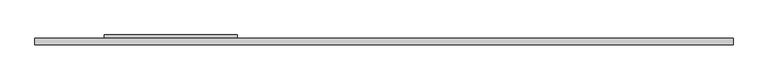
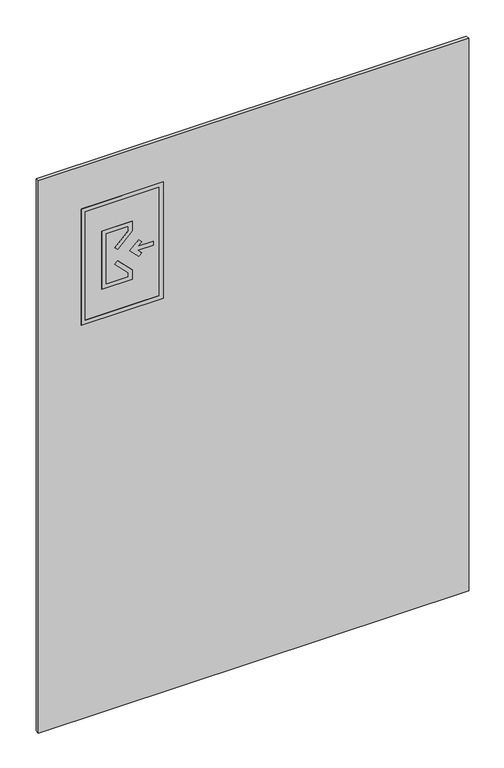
"""IFC4 building model written with IfcOpenShell, lengths in millimetres: plate geometry, 教学楼 - 窗嵌板：外贴消防通道 : 教学楼 - 窗嵌板：外贴消防通道."""

from ifc_helpers import new_model, si_unit, frame, origin, origin_with_axes, place, context, project, spatial, polyline, outline, extrude, source, transform, mapped, element, save


def plate_942ffe46(model_context):
    return source(origin(), model_context, "Body", "SweptSolid", [
        extrude(outline(polyline([(1315.8626933, -420.9928715), (1015.8626933, -420.9928715), (1015.8626933, -220.9928715), (1315.8626933, -220.9928715), (1315.8626933, -420.9928715)]), holes=[polyline([(1305.8626933, -230.9928715), (1025.8626933, -230.9928715), (1025.8626933, -410.9928715), (1305.8626933, -410.9928715), (1305.8626933, -230.9928715)])]), frame((0.0, 0.0, 0.0), z_axis=(0.0, 1.0, 0.0), x_axis=(0.0, 0.0, 1.0)), (0.0, 0.0, 1.0), 15.0),
        extrude(outline(polyline([(1115.8626933, -295.9928715), (1151.2180324, -331.3482106), (1144.1469646, -338.4192784), (1111.7205577, -305.9928715), (1100.8626933, -305.9928715), (1100.8626933, -360.9928715), (1230.8626933, -360.9928715), (1230.8626933, -305.9928715), (1220.004829, -305.9928715), (1187.5784221, -338.4192784), (1180.5073543, -331.3482106), (1215.8626933, -295.9928715), (1240.8626933, -295.9928715), (1240.8626933, -370.9928715), (1090.8626933, -370.9928715), (1090.8626933, -295.9928715), (1115.8626933, -295.9928715)])), frame((0.0, 0.0, 0.0), z_axis=(0.0, 1.0, 0.0), x_axis=(0.0, 0.0, 1.0)), (0.0, 0.0, 1.0), 15.0),
        extrude(outline(polyline([(1170.9929721, -282.5992105), (1180.1351078, -273.4570748), (1187.2061756, -280.5281427), (1165.9929721, -301.7413461), (1144.7797687, -280.5281427), (1151.8508365, -273.4570748), (1160.9929721, -282.5992105), (1160.9929721, -244.6702783), (1170.9929721, -244.6702783), (1170.9929721, -282.5992105)])), frame((0.0, 0.0, 0.0), z_axis=(0.0, 1.0, 0.0), x_axis=(0.0, 0.0, 1.0)), (0.0, 0.0, 1.0), 15.0),
        extrude(outline(polyline([(525.0, 10.0), (525.0, 0.0), (-525.0, 0.0), (-525.0, 10.0), (525.0, 10.0)])), origin_with_axes(), (0.0, 0.0, 1.0), 1425.0),
    ])


if __name__ == "__main__":
    model = new_model("IFC4")
    model_context = context("Model", 3, world=origin())
    ifc_project = project(units=[si_unit("LENGTHUNIT", "METRE", prefix="MILLI")], contexts=[model_context])
    site = spatial("IfcSite", under=ifc_project)
    building = spatial("IfcBuilding", under=site)
    placement = place(None, origin())
    plate_shape = plate_942ffe46(model_context)
    element("IfcPlate", 1, ObjectType="教学楼 - 窗嵌板：外贴消防通道 : 教学楼 - 窗嵌板：外贴消防通道", at=placement, inside=building, context=model_context, shape_type="MappedRepresentation", body=[
        mapped(plate_shape, transform((0.0, 0.0, 0.0), x_axis=(1.0, 0.0, 0.0), y_axis=(0.0, 1.0, 0.0), z_axis=(0.0, 0.0, 1.0))),
    ])
    save(model, "model.ifc")
